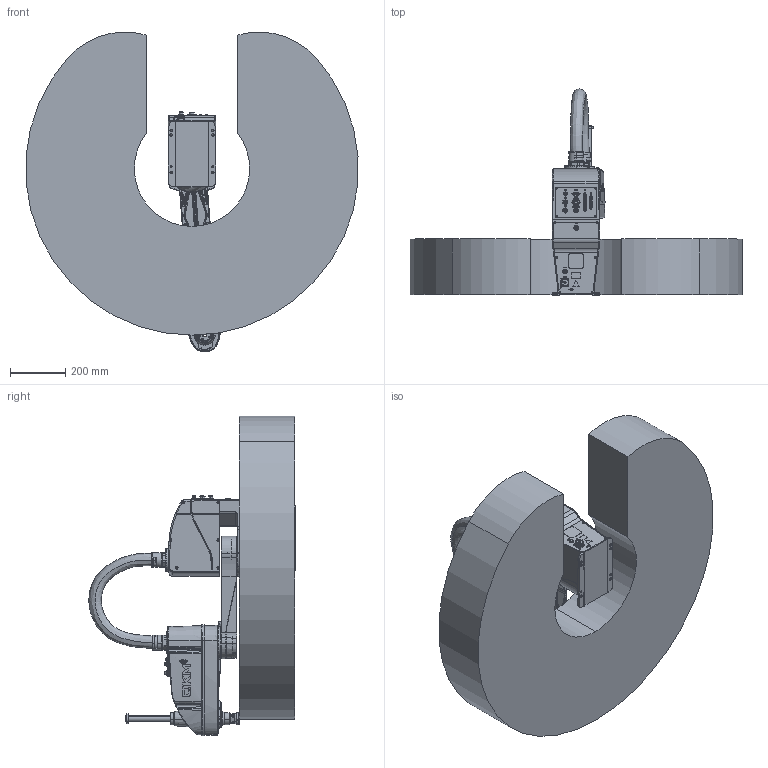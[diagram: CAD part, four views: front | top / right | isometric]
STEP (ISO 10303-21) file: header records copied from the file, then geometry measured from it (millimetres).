
FILE_DESCRIPTION (( 'STEP AP214' ), '1' );
FILE_NAME ('AH6-0600-0204-2000-T0-2.0.0.STEP', '2020-04-23T08:02:01', ( '' ), ( '' ), 'SwSTEP 2.0', 'SolidWorks 2017', '' );
FILE_SCHEMA (( 'AUTOMOTIVE_DESIGN' ));
Length unit declared in the file: millimetre
Products named in the file (7): AH6-0600-0204-2000-T6-2.0.0; AH6-0600-0204-2000-T4-2.0.0; AH6-0600-0204-2000-T2-2.0.0; AH6-0600-0204-2000-T1-2.0.0; AH6-0600-0204-2000-T5-2.0.0; AH6-0600-0204-2000-T3-2.0.0; AH6-0600-0204-2000-T0-2.0.0
Assembly tree (6 placements, depth 2):
  AH6-0600-0204-2000-T0-2.0.0
    AH6-0600-0204-2000-T3-2.0.0
    AH6-0600-0204-2000-T5-2.0.0
    AH6-0600-0204-2000-T1-2.0.0
    AH6-0600-0204-2000-T2-2.0.0
    AH6-0600-0204-2000-T4-2.0.0
    AH6-0600-0204-2000-T6-2.0.0
Bounding box: 1196.64 x 743.15 x 1152.51 mm (x, y, z)
Volume: 194117709.5 mm3; surface area: 3929565 mm2
Topology: 7 solids, 7 shells, 6717 faces, 17321 edges, 11034 vertices
Faces by surface type: plane 3055, bspline 1927, cylinder 1218, cone 506, torus 11
Entity records: 360265 total; most frequent: CARTESIAN_POINT 169461, ORIENTED_EDGE 34454, DIRECTION 24637, EDGE_CURVE 17227, VERTEX_POINT 11034, VECTOR 8791, LINE 8791, AXIS2_PLACEMENT_3D 7923
